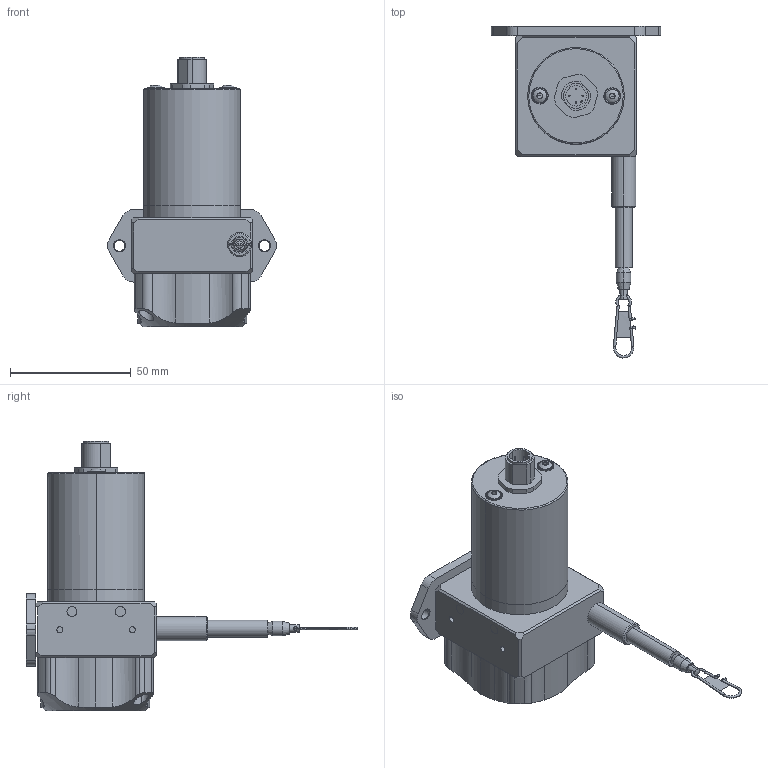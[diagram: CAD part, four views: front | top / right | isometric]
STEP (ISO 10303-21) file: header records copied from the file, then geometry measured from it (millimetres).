
FILE_DESCRIPTION (( 'STEP AP214' ), '1' );
FILE_NAME ('D8.3A1.0125.A333.0000.STEP', '2010-11-24T07:32:40', ( 'admin' ), ( 'Fritz Kübler GmbH' ), 'SwSTEP 2.0', 'SolidWorks 2009', '' );
FILE_SCHEMA (( 'AUTOMOTIVE_DESIGN' ));
Length unit declared in the file: millimetre
Products named in the file (1): D8.3A1.0125.A333.0000
Bounding box: 70 x 137.32 x 111.5 mm (x, y, z)
Surface area: 31629.8 mm2 (no closed solid volume)
Topology: 0 solids, 22 shells, 270 faces, 809 edges, 548 vertices
Faces by surface type: cylinder 108, plane 102, cone 30, torus 21, bspline 6, sphere 3
Entity records: 15192 total; most frequent: CARTESIAN_POINT 5156, DIRECTION 1444, ORIENTED_EDGE 1406, EDGE_CURVE 795, VERTEX_POINT 546, AXIS2_PLACEMENT_3D 536, VECTOR 372, LINE 372
